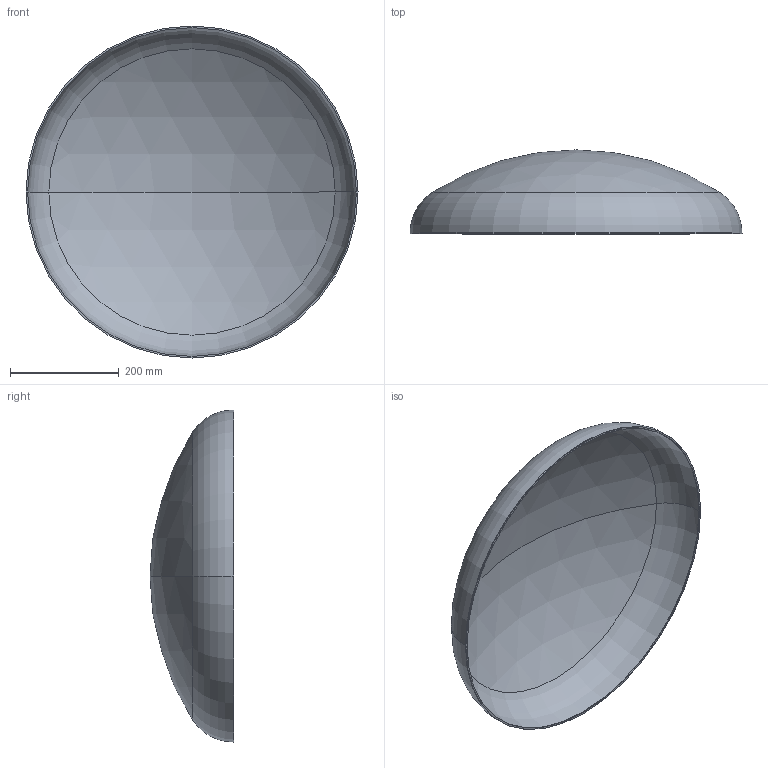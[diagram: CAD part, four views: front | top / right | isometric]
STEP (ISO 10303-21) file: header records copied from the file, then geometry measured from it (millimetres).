
FILE_DESCRIPTION (( 'STEP AP203' ), '1' );
FILE_NAME ('3D_R365_609.6x3_173375460.STEP', '2024-07-16T07:42:24', ( '' ), ( '' ), 'SwSTEP 2.0', 'SolidWorks 2024', '' );
FILE_SCHEMA (( 'CONFIG_CONTROL_DESIGN' ));
Length unit declared in the file: millimetre
Products named in the file (1): 3D_R365_609.6x3_173375460
Bounding box: 609.6 x 154 x 609.6 mm (x, y, z)
Volume: 1192761.4 mm3; surface area: 800909.8 mm2
Topology: 1 solids, 1 shells, 13 faces, 24 edges, 14 vertices
Faces by surface type: sphere 4, torus 4, cylinder 4, plane 1
Entity records: 407 total; most frequent: DIRECTION 72, CARTESIAN_POINT 52, ORIENTED_EDGE 48, AXIS2_PLACEMENT_3D 34, EDGE_CURVE 24, CIRCLE 20, VERTEX_POINT 14, EDGE_LOOP 14
